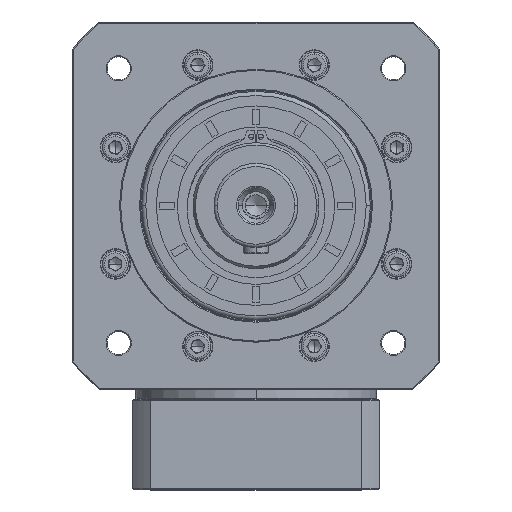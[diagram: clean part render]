
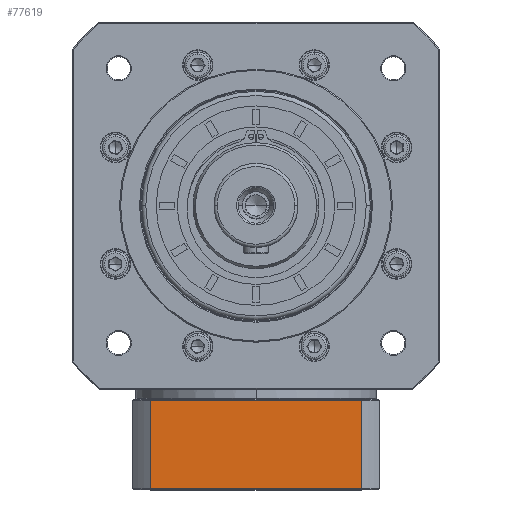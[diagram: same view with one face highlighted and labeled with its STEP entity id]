
A CAD part, top view. The second image highlights one B-rep face of the part: STEP entity #77619.
In plain terms, the highlighted planar face has unit normal (0, 0, 1).
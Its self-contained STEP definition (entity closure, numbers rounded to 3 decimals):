
#3730 = LINE ( 'NONE', #51044, #46738 ) ;
#11530 = LINE ( 'NONE', #29641, #32967 ) ;
#17870 = PLANE ( 'NONE',  #150920 ) ;
#18286 = CARTESIAN_POINT ( 'NONE',  ( -256.509, -157.778, 68.46 ) ) ;
#18436 = CARTESIAN_POINT ( 'NONE',  ( -247.761, -115.778, 68.46 ) ) ;
#29641 = CARTESIAN_POINT ( 'NONE',  ( -256.509, -115.778, 68.46 ) ) ;
#32967 = VECTOR ( 'NONE', #115051, 1000. ) ;
#34189 = CARTESIAN_POINT ( 'NONE',  ( -247.761, -158.278, 68.46 ) ) ;
#43628 = FACE_OUTER_BOUND ( 'NONE', #154824, .T. ) ;
#44915 = DIRECTION ( 'NONE',  ( -1., 0., 0. ) ) ;
#46738 = VECTOR ( 'NONE', #128329, 1000. ) ;
#51044 = CARTESIAN_POINT ( 'NONE',  ( -147.257, 106.117, 68.46 ) ) ;
#51052 = LINE ( 'NONE', #18286, #113310 ) ;
#52336 = CARTESIAN_POINT ( 'NONE',  ( -147.257, -115.778, 68.46 ) ) ;
#55964 = DIRECTION ( 'NONE',  ( -1., 0., 0. ) ) ;
#63167 = VERTEX_POINT ( 'NONE', #146394 ) ;
#63630 = EDGE_CURVE ( 'NONE', #132840, #63167, #51052, .T. ) ;
#63831 = LINE ( 'NONE', #34189, #106634 ) ;
#76916 = CARTESIAN_POINT ( 'NONE',  ( -147.257, -157.778, 68.46 ) ) ;
#77619 = ADVANCED_FACE ( 'NONE', ( #43628 ), #17870, .F. ) ;
#80425 = DIRECTION ( 'NONE',  ( 0., 0., -1. ) ) ;
#89350 = EDGE_CURVE ( 'NONE', #116876, #132840, #3730, .T. ) ;
#92324 = ORIENTED_EDGE ( 'NONE', *, *, #141369, .F. ) ;
#106634 = VECTOR ( 'NONE', #157831, 1000. ) ;
#106814 = EDGE_CURVE ( 'NONE', #141219, #116876, #11530, .T. ) ;
#113310 = VECTOR ( 'NONE', #44915, 1000. ) ;
#115051 = DIRECTION ( 'NONE',  ( 1., 0., 0. ) ) ;
#116876 = VERTEX_POINT ( 'NONE', #52336 ) ;
#128329 = DIRECTION ( 'NONE',  ( 0., -1., 0. ) ) ;
#130822 = ORIENTED_EDGE ( 'NONE', *, *, #89350, .F. ) ;
#132840 = VERTEX_POINT ( 'NONE', #76916 ) ;
#141219 = VERTEX_POINT ( 'NONE', #18436 ) ;
#141369 = EDGE_CURVE ( 'NONE', #63167, #141219, #63831, .T. ) ;
#142538 = CARTESIAN_POINT ( 'NONE',  ( -256.509, -158.278, 68.46 ) ) ;
#146394 = CARTESIAN_POINT ( 'NONE',  ( -247.761, -157.778, 68.46 ) ) ;
#150425 = ORIENTED_EDGE ( 'NONE', *, *, #106814, .F. ) ;
#150920 = AXIS2_PLACEMENT_3D ( 'NONE', #142538, #80425, #55964 ) ;
#154824 = EDGE_LOOP ( 'NONE', ( #130822, #150425, #92324, #155430 ) ) ;
#155430 = ORIENTED_EDGE ( 'NONE', *, *, #63630, .F. ) ;
#157831 = DIRECTION ( 'NONE',  ( 0., 1., 0. ) ) ;
